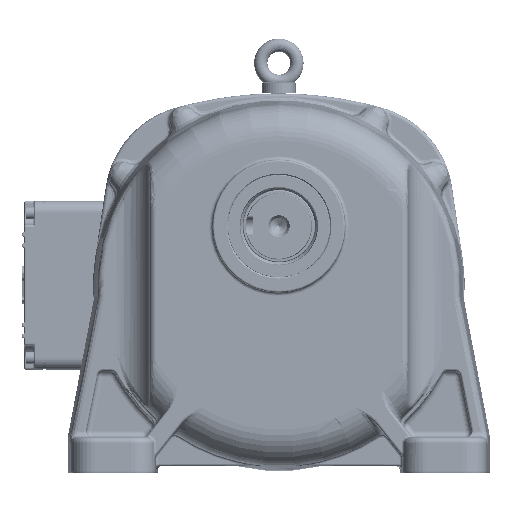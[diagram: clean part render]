
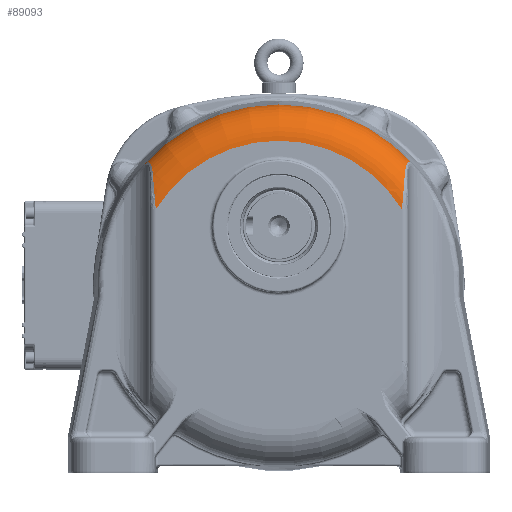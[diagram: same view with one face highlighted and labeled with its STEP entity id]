
A CAD part, front view. The second image highlights one B-rep face of the part: STEP entity #89093.
In plain terms, the highlighted toroidal (fillet/blend) face has major radius 119.862 mm and minor radius 30 mm.
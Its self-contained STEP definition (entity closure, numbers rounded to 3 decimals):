
#3308=TOROIDAL_SURFACE('',#97185,119.862,30.);
#7939=FACE_OUTER_BOUND('',#13440,.T.);
#13440=EDGE_LOOP('',(#68285,#68286,#68287,#68288,#68289,#68290));
#18686=CIRCLE('',#96534,119.862);
#19065=CIRCLE('',#97186,149.849);
#31422=B_SPLINE_CURVE_WITH_KNOTS('',3,(#188323,#188324,#188325,#188326,
#188327),.UNSPECIFIED.,.F.,.F.,(4,1,4),(-2.599,-1.114,
0.),.UNSPECIFIED.);
#31424=B_SPLINE_CURVE_WITH_KNOTS('',3,(#188381,#188382,#188383,#188384,
#188385,#188386,#188387,#188388,#188389),.UNSPECIFIED.,.F.,.F.,(4,1,1,1,
1,1,4),(-2.566,-2.199,-1.833,-1.466,
-1.1,-0.733,0.),.UNSPECIFIED.);
#31429=B_SPLINE_CURVE_WITH_KNOTS('',3,(#188471,#188472,#188473,#188474,
#188475,#188476,#188477,#188478,#188479),.UNSPECIFIED.,.F.,.F.,(4,1,1,1,
1,1,4),(0.,0.733,1.1,1.466,1.833,
2.199,2.566),.UNSPECIFIED.);
#31430=B_SPLINE_CURVE_WITH_KNOTS('',3,(#188480,#188481,#188482,#188483,
#188484),.UNSPECIFIED.,.F.,.F.,(4,1,4),(-2.599,-1.114,
0.),.UNSPECIFIED.);
#36724=VERTEX_POINT('',#181130);
#36725=VERTEX_POINT('',#181132);
#37254=VERTEX_POINT('',#188321);
#37256=VERTEX_POINT('',#188379);
#37258=VERTEX_POINT('',#188468);
#37259=VERTEX_POINT('',#188470);
#47250=EDGE_CURVE('',#36725,#36724,#18686,.T.);
#48129=EDGE_CURVE('',#37254,#36724,#31422,.T.);
#48132=EDGE_CURVE('',#37256,#37254,#31424,.T.);
#48139=EDGE_CURVE('',#37256,#37258,#19065,.T.);
#48140=EDGE_CURVE('',#37259,#37258,#31429,.T.);
#48141=EDGE_CURVE('',#36725,#37259,#31430,.T.);
#68285=ORIENTED_EDGE('',*,*,#48129,.F.);
#68286=ORIENTED_EDGE('',*,*,#48132,.F.);
#68287=ORIENTED_EDGE('',*,*,#48139,.T.);
#68288=ORIENTED_EDGE('',*,*,#48140,.F.);
#68289=ORIENTED_EDGE('',*,*,#48141,.F.);
#68290=ORIENTED_EDGE('',*,*,#47250,.T.);
#89093=ADVANCED_FACE('',(#7939),#3308,.T.);
#96534=AXIS2_PLACEMENT_3D('',#181133,#112178,#112179);
#97185=AXIS2_PLACEMENT_3D('',#188467,#113728,#113729);
#97186=AXIS2_PLACEMENT_3D('',#188469,#113730,#113731);
#112178=DIRECTION('center_axis',(0.,1.,0.));
#112179=DIRECTION('ref_axis',(-1.,0.,0.));
#113728=DIRECTION('center_axis',(0.,1.,0.));
#113729=DIRECTION('ref_axis',(0.,0.,1.));
#113730=DIRECTION('center_axis',(0.,-1.,0.));
#113731=DIRECTION('ref_axis',(-1.,0.,0.));
#181130=CARTESIAN_POINT('',(89.309,-190.758,61.201));
#181132=CARTESIAN_POINT('',(-114.691,-190.758,61.201));
#181133=CARTESIAN_POINT('Origin',(-12.691,-190.758,-1.75));
#188321=CARTESIAN_POINT('',(91.578,-184.758,88.438));
#188323=CARTESIAN_POINT('Ctrl Pts',(91.578,-184.758,
88.438));
#188324=CARTESIAN_POINT('Ctrl Pts',(91.187,-187.374,
83.558));
#188325=CARTESIAN_POINT('Ctrl Pts',(90.427,-190.123,
74.349));
#188326=CARTESIAN_POINT('Ctrl Pts',(89.641,-190.758,
65.118));
#188327=CARTESIAN_POINT('Ctrl Pts',(89.309,-190.758,
61.201));
#188379=CARTESIAN_POINT('',(99.254,-161.632,97.864));
#188381=CARTESIAN_POINT('Ctrl Pts',(99.254,-161.632,
97.864));
#188382=CARTESIAN_POINT('Ctrl Pts',(98.624,-162.643,
98.528));
#188383=CARTESIAN_POINT('Ctrl Pts',(97.367,-164.843,
99.667));
#188384=CARTESIAN_POINT('Ctrl Pts',(95.583,-168.702,
100.46));
#188385=CARTESIAN_POINT('Ctrl Pts',(94.09,-172.872,
99.901));
#188386=CARTESIAN_POINT('Ctrl Pts',(93.033,-176.753,
98.013));
#188387=CARTESIAN_POINT('Ctrl Pts',(92.117,-181.105,94.326));
#188388=CARTESIAN_POINT('Ctrl Pts',(91.771,-183.466,
90.848));
#188389=CARTESIAN_POINT('Ctrl Pts',(91.578,-184.758,
88.438));
#188467=CARTESIAN_POINT('Origin',(-12.691,-160.758,-1.75));
#188468=CARTESIAN_POINT('',(-124.637,-161.632,97.864));
#188469=CARTESIAN_POINT('Origin',(-12.691,-161.632,-1.75));
#188470=CARTESIAN_POINT('',(-116.96,-184.758,88.438));
#188471=CARTESIAN_POINT('Ctrl Pts',(-116.96,-184.758,
88.438));
#188472=CARTESIAN_POINT('Ctrl Pts',(-117.153,-183.466,
90.848));
#188473=CARTESIAN_POINT('Ctrl Pts',(-117.5,-181.104,
94.328));
#188474=CARTESIAN_POINT('Ctrl Pts',(-118.415,-176.754,
98.013));
#188475=CARTESIAN_POINT('Ctrl Pts',(-119.473,-172.871,
99.902));
#188476=CARTESIAN_POINT('Ctrl Pts',(-120.965,-168.703,
100.46));
#188477=CARTESIAN_POINT('Ctrl Pts',(-122.75,-164.842,
99.667));
#188478=CARTESIAN_POINT('Ctrl Pts',(-124.006,-162.643,
98.528));
#188479=CARTESIAN_POINT('Ctrl Pts',(-124.637,-161.632,
97.864));
#188480=CARTESIAN_POINT('Ctrl Pts',(-114.691,-190.758,
61.201));
#188481=CARTESIAN_POINT('Ctrl Pts',(-115.134,-190.758,
66.424));
#188482=CARTESIAN_POINT('Ctrl Pts',(-115.925,-189.92,
75.713));
#188483=CARTESIAN_POINT('Ctrl Pts',(-116.667,-186.72,
84.778));
#188484=CARTESIAN_POINT('Ctrl Pts',(-116.96,-184.758,
88.438));
